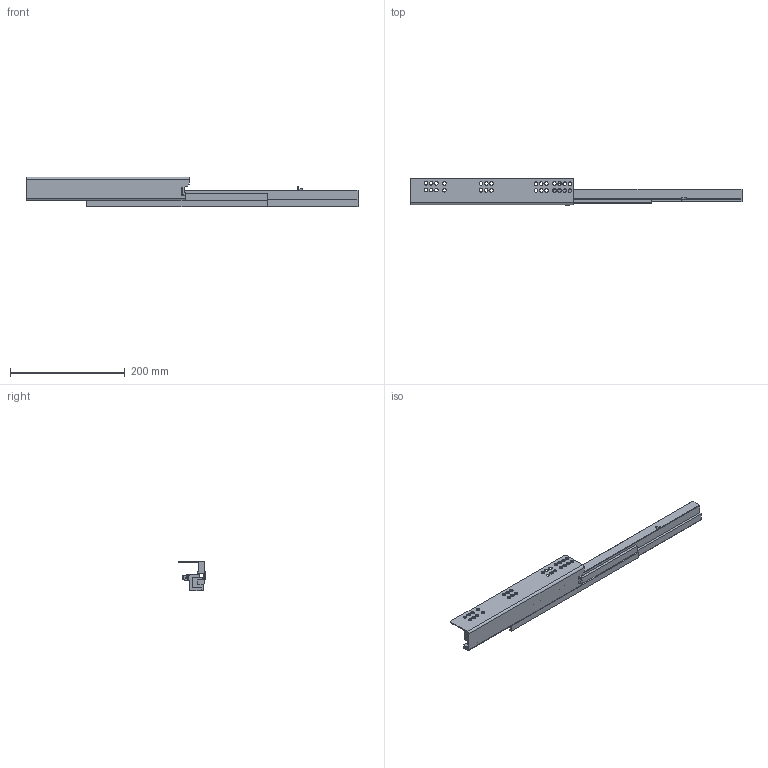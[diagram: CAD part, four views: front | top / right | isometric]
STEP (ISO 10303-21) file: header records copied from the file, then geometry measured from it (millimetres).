
FILE_DESCRIPTION (( 'STEP AP203' ), '1' );
FILE_NAME ('TS10350H-L-DTC3D-open.STEP', '2021-07-09T03:15:03', ( 'df' ), ( 'Microsoft' ), 'SwSTEP 2.0', 'SolidWorks 2018', '' );
FILE_SCHEMA (( 'CONFIG_CONTROL_DESIGN' ));
Length unit declared in the file: millimetre
Products named in the file (1): TS10350H-L-DTC3D-open
Bounding box: 579.3 x 48 x 51.73 mm (x, y, z)
Volume: 340591.4 mm3; surface area: 98714.4 mm2
Topology: 1 solids, 1 shells, 362 faces, 955 edges, 608 vertices
Faces by surface type: plane 126, cylinder 109, cone 64, bspline 47, torus 14, sphere 2
Entity records: 12943 total; most frequent: CARTESIAN_POINT 3922, ORIENTED_EDGE 1906, DIRECTION 1785, EDGE_CURVE 953, AXIS2_PLACEMENT_3D 629, VERTEX_POINT 608, VECTOR 527, LINE 527
